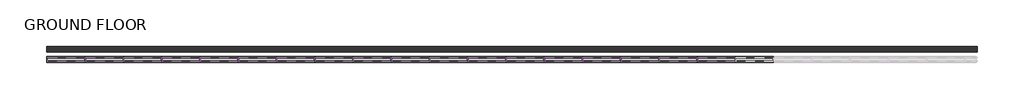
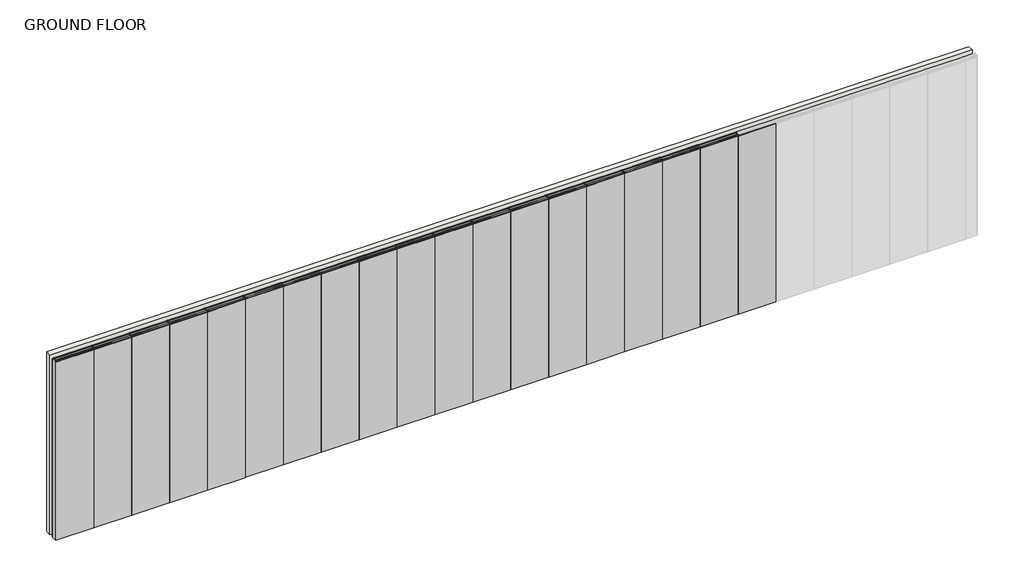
# One storey, part 1 of 2: 56 members, 19 plates, 1 wall.
"""IFC4 building model written with IfcOpenShell, lengths in millimetres."""

from ifc_helpers import new_model, si_unit, origin, origin_with_axes, place, context, project, spatial, polyline, outline, extrude, transform, mapped, element, save
from components import rectangular_mullion_stud_mullion_63mm_af775e70, rectangular_mullion_stud_mullion_63mm_2c4afd4c, rectangular_mullion_stud_mullion_63mm_ab3eab4e, rectangular_mullion_stud_mullion_63mm_08592bac, plate_2_layer_drywall_panels_2_layer_15mm_drywall_panels_7b1b0b35

model = new_model("IFC4")

# Units and contexts
model_context = context("Model", 3, world=origin())
ifc_project = project(units=[si_unit("LENGTHUNIT", "METRE", prefix="MILLI")], contexts=[model_context])

# Site, building, storey
site = spatial("IfcSite", under=ifc_project)
building = spatial("IfcBuilding", under=site)
storey = spatial("IfcBuildingStorey", under=building, Name="GROUND FLOOR", Elevation=0.0)

# Members
placement = place(None, origin())
rectangular_mullion_stud_mullion_63mm_shape = rectangular_mullion_stud_mullion_63mm_af775e70(model_context)
element("IfcMember", 1, ObjectType="Rectangular Mullion : Stud Mullion - 63mm", at=placement, inside=storey, context=model_context, shape_type="MappedRepresentation", body=[
    mapped(rectangular_mullion_stud_mullion_63mm_shape, transform((61654.5186508, -31259.4010443, 0.0), x_axis=(0.0, 0.0, -1.0), y_axis=(0.0, -1.0, 0.0), z_axis=(-1.0, 0.0, 0.0))),
])
element("IfcMember", 2, ObjectType="Rectangular Mullion : Stud Mullion - 63mm", at=placement, inside=storey, context=model_context, shape_type="MappedRepresentation", body=[
    mapped(rectangular_mullion_stud_mullion_63mm_shape, transform((62254.5186511, -31259.4010443, 0.0), x_axis=(0.0, 0.0, -1.0), y_axis=(0.0, -1.0, 0.0), z_axis=(-1.0, 0.0, 0.0))),
])
element("IfcMember", 3, ObjectType="Rectangular Mullion : Stud Mullion - 63mm", at=placement, inside=storey, context=model_context, shape_type="MappedRepresentation", body=[
    mapped(rectangular_mullion_stud_mullion_63mm_shape, transform((62854.5186511, -31259.4010443, 0.0), x_axis=(0.0, 0.0, -1.0), y_axis=(0.0, -1.0, 0.0), z_axis=(-1.0, 0.0, 0.0))),
])
element("IfcMember", 4, ObjectType="Rectangular Mullion : Stud Mullion - 63mm", at=placement, inside=storey, context=model_context, shape_type="MappedRepresentation", body=[
    mapped(rectangular_mullion_stud_mullion_63mm_shape, transform((63454.5186511, -31259.4010443, 0.0), x_axis=(0.0, 0.0, -1.0), y_axis=(0.0, -1.0, 0.0), z_axis=(-1.0, 0.0, 0.0))),
])
element("IfcMember", 5, ObjectType="Rectangular Mullion : Stud Mullion - 63mm", at=placement, inside=storey, context=model_context, shape_type="MappedRepresentation", body=[
    mapped(rectangular_mullion_stud_mullion_63mm_shape, transform((64054.5186511, -31259.4010443, 0.0), x_axis=(0.0, 0.0, -1.0), y_axis=(0.0, -1.0, 0.0), z_axis=(-1.0, 0.0, 0.0))),
])
element("IfcMember", 6, ObjectType="Rectangular Mullion : Stud Mullion - 63mm", at=placement, inside=storey, context=model_context, shape_type="MappedRepresentation", body=[
    mapped(rectangular_mullion_stud_mullion_63mm_shape, transform((64654.5186511, -31259.4010443, 0.0), x_axis=(0.0, 0.0, -1.0), y_axis=(0.0, -1.0, 0.0), z_axis=(-1.0, 0.0, 0.0))),
])
element("IfcMember", 7, ObjectType="Rectangular Mullion : Stud Mullion - 63mm", at=placement, inside=storey, context=model_context, shape_type="MappedRepresentation", body=[
    mapped(rectangular_mullion_stud_mullion_63mm_shape, transform((65254.5186511, -31259.4010443, 0.0), x_axis=(0.0, 0.0, -1.0), y_axis=(0.0, -1.0, 0.0), z_axis=(-1.0, 0.0, 0.0))),
])
element("IfcMember", 8, ObjectType="Rectangular Mullion : Stud Mullion - 63mm", at=placement, inside=storey, context=model_context, shape_type="MappedRepresentation", body=[
    mapped(rectangular_mullion_stud_mullion_63mm_shape, transform((65854.5186511, -31259.4010443, 0.0), x_axis=(0.0, 0.0, -1.0), y_axis=(0.0, -1.0, 0.0), z_axis=(-1.0, 0.0, 0.0))),
])
element("IfcMember", 9, ObjectType="Rectangular Mullion : Stud Mullion - 63mm", at=placement, inside=storey, context=model_context, shape_type="MappedRepresentation", body=[
    mapped(rectangular_mullion_stud_mullion_63mm_shape, transform((66454.5186511, -31259.4010443, 0.0), x_axis=(0.0, 0.0, -1.0), y_axis=(0.0, -1.0, 0.0), z_axis=(-1.0, 0.0, 0.0))),
])
element("IfcMember", 10, ObjectType="Rectangular Mullion : Stud Mullion - 63mm", at=placement, inside=storey, context=model_context, shape_type="MappedRepresentation", body=[
    mapped(rectangular_mullion_stud_mullion_63mm_shape, transform((67054.5186511, -31259.4010443, 0.0), x_axis=(0.0, 0.0, -1.0), y_axis=(0.0, -1.0, 0.0), z_axis=(-1.0, 0.0, 0.0))),
])
element("IfcMember", 11, ObjectType="Rectangular Mullion : Stud Mullion - 63mm", at=placement, inside=storey, context=model_context, shape_type="MappedRepresentation", body=[
    mapped(rectangular_mullion_stud_mullion_63mm_shape, transform((67654.5186511, -31259.4010443, 0.0), x_axis=(0.0, 0.0, -1.0), y_axis=(0.0, -1.0, 0.0), z_axis=(-1.0, 0.0, 0.0))),
])
element("IfcMember", 12, ObjectType="Rectangular Mullion : Stud Mullion - 63mm", at=placement, inside=storey, context=model_context, shape_type="MappedRepresentation", body=[
    mapped(rectangular_mullion_stud_mullion_63mm_shape, transform((68254.5186511, -31259.4010443, 0.0), x_axis=(0.0, 0.0, -1.0), y_axis=(0.0, -1.0, 0.0), z_axis=(-1.0, 0.0, 0.0))),
])
element("IfcMember", 13, ObjectType="Rectangular Mullion : Stud Mullion - 63mm", at=placement, inside=storey, context=model_context, shape_type="MappedRepresentation", body=[
    mapped(rectangular_mullion_stud_mullion_63mm_shape, transform((68854.5186511, -31259.4010443, 0.0), x_axis=(0.0, 0.0, -1.0), y_axis=(0.0, -1.0, 0.0), z_axis=(-1.0, 0.0, 0.0))),
])
element("IfcMember", 14, ObjectType="Rectangular Mullion : Stud Mullion - 63mm", at=placement, inside=storey, context=model_context, shape_type="MappedRepresentation", body=[
    mapped(rectangular_mullion_stud_mullion_63mm_shape, transform((69454.5186511, -31259.4010443, 0.0), x_axis=(0.0, 0.0, -1.0), y_axis=(0.0, -1.0, 0.0), z_axis=(-1.0, 0.0, 0.0))),
])
element("IfcMember", 15, ObjectType="Rectangular Mullion : Stud Mullion - 63mm", at=placement, inside=storey, context=model_context, shape_type="MappedRepresentation", body=[
    mapped(rectangular_mullion_stud_mullion_63mm_shape, transform((70054.5186511, -31259.4010443, 0.0), x_axis=(0.0, 0.0, -1.0), y_axis=(0.0, -1.0, 0.0), z_axis=(-1.0, 0.0, 0.0))),
])
element("IfcMember", 16, ObjectType="Rectangular Mullion : Stud Mullion - 63mm", at=placement, inside=storey, context=model_context, shape_type="MappedRepresentation", body=[
    mapped(rectangular_mullion_stud_mullion_63mm_shape, transform((70654.5186511, -31259.4010443, 0.0), x_axis=(0.0, 0.0, -1.0), y_axis=(0.0, -1.0, 0.0), z_axis=(-1.0, 0.0, 0.0))),
])
element("IfcMember", 17, ObjectType="Rectangular Mullion : Stud Mullion - 63mm", at=placement, inside=storey, context=model_context, shape_type="MappedRepresentation", body=[
    mapped(rectangular_mullion_stud_mullion_63mm_shape, transform((71254.5186511, -31259.4010443, 0.0), x_axis=(0.0, 0.0, -1.0), y_axis=(0.0, -1.0, 0.0), z_axis=(-1.0, 0.0, 0.0))),
])
element("IfcMember", 18, ObjectType="Rectangular Mullion : Stud Mullion - 63mm", at=placement, inside=storey, context=model_context, shape_type="MappedRepresentation", body=[
    mapped(rectangular_mullion_stud_mullion_63mm_shape, transform((71854.5186511, -31259.4010443, 0.0), x_axis=(0.0, 0.0, -1.0), y_axis=(0.0, -1.0, 0.0), z_axis=(-1.0, 0.0, 0.0))),
])
element("IfcMember", 19, ObjectType="Rectangular Mullion : Stud Mullion - 63mm", at=placement, inside=storey, context=model_context, shape_type="MappedRepresentation", body=[
    mapped(rectangular_mullion_stud_mullion_63mm_shape, transform((72454.5186511, -31259.4010443, 0.0), x_axis=(0.0, 0.0, -1.0), y_axis=(0.0, -1.0, 0.0), z_axis=(-1.0, 0.0, 0.0))),
])
rectangular_mullion_stud_mullion_63mm_2_shape = rectangular_mullion_stud_mullion_63mm_2c4afd4c(model_context)
element("IfcMember", 20, ObjectType="Rectangular Mullion : Stud Mullion - 63mm", at=placement, inside=storey, context=model_context, shape_type="MappedRepresentation", body=[
    mapped(rectangular_mullion_stud_mullion_63mm_2_shape, transform((61635.5186508, -31259.4010443, 3000.0), x_axis=(-1.0, 0.0, 0.0), y_axis=(0.0, -1.0, 0.0), z_axis=(0.0, 0.0, 1.0))),
])
rectangular_mullion_stud_mullion_63mm_3_shape = rectangular_mullion_stud_mullion_63mm_ab3eab4e(model_context)
element("IfcMember", 21, ObjectType="Rectangular Mullion : Stud Mullion - 63mm", at=placement, inside=storey, context=model_context, shape_type="MappedRepresentation", body=[
    mapped(rectangular_mullion_stud_mullion_63mm_3_shape, transform((62235.5186511, -31259.4010443, 3000.0), x_axis=(0.0, 0.0, 1.0), y_axis=(0.0, -1.0, 0.0), z_axis=(1.0, 0.0, 0.0))),
])
element("IfcMember", 22, ObjectType="Rectangular Mullion : Stud Mullion - 63mm", at=placement, inside=storey, context=model_context, shape_type="MappedRepresentation", body=[
    mapped(rectangular_mullion_stud_mullion_63mm_3_shape, transform((62835.5186511, -31259.4010443, 3000.0), x_axis=(0.0, 0.0, 1.0), y_axis=(0.0, -1.0, 0.0), z_axis=(1.0, 0.0, 0.0))),
])
element("IfcMember", 23, ObjectType="Rectangular Mullion : Stud Mullion - 63mm", at=placement, inside=storey, context=model_context, shape_type="MappedRepresentation", body=[
    mapped(rectangular_mullion_stud_mullion_63mm_3_shape, transform((63435.5186511, -31259.4010443, 3000.0), x_axis=(0.0, 0.0, 1.0), y_axis=(0.0, -1.0, 0.0), z_axis=(1.0, 0.0, 0.0))),
])
element("IfcMember", 24, ObjectType="Rectangular Mullion : Stud Mullion - 63mm", at=placement, inside=storey, context=model_context, shape_type="MappedRepresentation", body=[
    mapped(rectangular_mullion_stud_mullion_63mm_3_shape, transform((64035.5186511, -31259.4010443, 3000.0), x_axis=(0.0, 0.0, 1.0), y_axis=(0.0, -1.0, 0.0), z_axis=(1.0, 0.0, 0.0))),
])
element("IfcMember", 25, ObjectType="Rectangular Mullion : Stud Mullion - 63mm", at=placement, inside=storey, context=model_context, shape_type="MappedRepresentation", body=[
    mapped(rectangular_mullion_stud_mullion_63mm_3_shape, transform((64635.5186511, -31259.4010443, 3000.0), x_axis=(0.0, 0.0, 1.0), y_axis=(0.0, -1.0, 0.0), z_axis=(1.0, 0.0, 0.0))),
])
element("IfcMember", 26, ObjectType="Rectangular Mullion : Stud Mullion - 63mm", at=placement, inside=storey, context=model_context, shape_type="MappedRepresentation", body=[
    mapped(rectangular_mullion_stud_mullion_63mm_3_shape, transform((65235.5186511, -31259.4010443, 3000.0), x_axis=(0.0, 0.0, 1.0), y_axis=(0.0, -1.0, 0.0), z_axis=(1.0, 0.0, 0.0))),
])
element("IfcMember", 27, ObjectType="Rectangular Mullion : Stud Mullion - 63mm", at=placement, inside=storey, context=model_context, shape_type="MappedRepresentation", body=[
    mapped(rectangular_mullion_stud_mullion_63mm_3_shape, transform((65835.5186511, -31259.4010443, 3000.0), x_axis=(0.0, 0.0, 1.0), y_axis=(0.0, -1.0, 0.0), z_axis=(1.0, 0.0, 0.0))),
])
element("IfcMember", 28, ObjectType="Rectangular Mullion : Stud Mullion - 63mm", at=placement, inside=storey, context=model_context, shape_type="MappedRepresentation", body=[
    mapped(rectangular_mullion_stud_mullion_63mm_3_shape, transform((66435.5186511, -31259.4010443, 3000.0), x_axis=(0.0, 0.0, 1.0), y_axis=(0.0, -1.0, 0.0), z_axis=(1.0, 0.0, 0.0))),
])
element("IfcMember", 29, ObjectType="Rectangular Mullion : Stud Mullion - 63mm", at=placement, inside=storey, context=model_context, shape_type="MappedRepresentation", body=[
    mapped(rectangular_mullion_stud_mullion_63mm_3_shape, transform((67035.5186511, -31259.4010443, 3000.0), x_axis=(0.0, 0.0, 1.0), y_axis=(0.0, -1.0, 0.0), z_axis=(1.0, 0.0, 0.0))),
])
element("IfcMember", 30, ObjectType="Rectangular Mullion : Stud Mullion - 63mm", at=placement, inside=storey, context=model_context, shape_type="MappedRepresentation", body=[
    mapped(rectangular_mullion_stud_mullion_63mm_3_shape, transform((67635.5186511, -31259.4010443, 3000.0), x_axis=(0.0, 0.0, 1.0), y_axis=(0.0, -1.0, 0.0), z_axis=(1.0, 0.0, 0.0))),
])
element("IfcMember", 31, ObjectType="Rectangular Mullion : Stud Mullion - 63mm", at=placement, inside=storey, context=model_context, shape_type="MappedRepresentation", body=[
    mapped(rectangular_mullion_stud_mullion_63mm_3_shape, transform((68235.5186511, -31259.4010443, 3000.0), x_axis=(0.0, 0.0, 1.0), y_axis=(0.0, -1.0, 0.0), z_axis=(1.0, 0.0, 0.0))),
])
element("IfcMember", 32, ObjectType="Rectangular Mullion : Stud Mullion - 63mm", at=placement, inside=storey, context=model_context, shape_type="MappedRepresentation", body=[
    mapped(rectangular_mullion_stud_mullion_63mm_3_shape, transform((68835.5186511, -31259.4010443, 3000.0), x_axis=(0.0, 0.0, 1.0), y_axis=(0.0, -1.0, 0.0), z_axis=(1.0, 0.0, 0.0))),
])
element("IfcMember", 33, ObjectType="Rectangular Mullion : Stud Mullion - 63mm", at=placement, inside=storey, context=model_context, shape_type="MappedRepresentation", body=[
    mapped(rectangular_mullion_stud_mullion_63mm_3_shape, transform((69435.5186511, -31259.4010443, 3000.0), x_axis=(0.0, 0.0, 1.0), y_axis=(0.0, -1.0, 0.0), z_axis=(1.0, 0.0, 0.0))),
])
element("IfcMember", 34, ObjectType="Rectangular Mullion : Stud Mullion - 63mm", at=placement, inside=storey, context=model_context, shape_type="MappedRepresentation", body=[
    mapped(rectangular_mullion_stud_mullion_63mm_3_shape, transform((70035.5186511, -31259.4010443, 3000.0), x_axis=(0.0, 0.0, 1.0), y_axis=(0.0, -1.0, 0.0), z_axis=(1.0, 0.0, 0.0))),
])
element("IfcMember", 35, ObjectType="Rectangular Mullion : Stud Mullion - 63mm", at=placement, inside=storey, context=model_context, shape_type="MappedRepresentation", body=[
    mapped(rectangular_mullion_stud_mullion_63mm_3_shape, transform((70635.5186511, -31259.4010443, 3000.0), x_axis=(0.0, 0.0, 1.0), y_axis=(0.0, -1.0, 0.0), z_axis=(1.0, 0.0, 0.0))),
])
element("IfcMember", 36, ObjectType="Rectangular Mullion : Stud Mullion - 63mm", at=placement, inside=storey, context=model_context, shape_type="MappedRepresentation", body=[
    mapped(rectangular_mullion_stud_mullion_63mm_3_shape, transform((71235.5186511, -31259.4010443, 3000.0), x_axis=(0.0, 0.0, 1.0), y_axis=(0.0, -1.0, 0.0), z_axis=(1.0, 0.0, 0.0))),
])
element("IfcMember", 37, ObjectType="Rectangular Mullion : Stud Mullion - 63mm", at=placement, inside=storey, context=model_context, shape_type="MappedRepresentation", body=[
    mapped(rectangular_mullion_stud_mullion_63mm_3_shape, transform((71835.5186511, -31259.4010443, 3000.0), x_axis=(0.0, 0.0, 1.0), y_axis=(0.0, -1.0, 0.0), z_axis=(1.0, 0.0, 0.0))),
])
element("IfcMember", 38, ObjectType="Rectangular Mullion : Stud Mullion - 63mm", at=placement, inside=storey, context=model_context, shape_type="MappedRepresentation", body=[
    mapped(rectangular_mullion_stud_mullion_63mm_3_shape, transform((72435.5186511, -31259.4010443, 3000.0), x_axis=(0.0, 0.0, 1.0), y_axis=(0.0, -1.0, 0.0), z_axis=(1.0, 0.0, 0.0))),
])
rectangular_mullion_stud_mullion_63mm_4_shape = rectangular_mullion_stud_mullion_63mm_08592bac(model_context)
element("IfcMember", 39, ObjectType="Rectangular Mullion : Stud Mullion - 63mm", at=placement, inside=storey, context=model_context, shape_type="MappedRepresentation", body=[
    mapped(rectangular_mullion_stud_mullion_63mm_4_shape, transform((62245.0186511, -31259.4010443, 0.0), x_axis=(1.0, 0.0, 0.0), y_axis=(0.0, -1.0, 0.0), z_axis=(0.0, 0.0, -1.0))),
])
element("IfcMember", 40, ObjectType="Rectangular Mullion : Stud Mullion - 63mm", at=placement, inside=storey, context=model_context, shape_type="MappedRepresentation", body=[
    mapped(rectangular_mullion_stud_mullion_63mm_4_shape, transform((62845.0186511, -31259.4010443, 0.0), x_axis=(1.0, 0.0, 0.0), y_axis=(0.0, -1.0, 0.0), z_axis=(0.0, 0.0, -1.0))),
])
element("IfcMember", 41, ObjectType="Rectangular Mullion : Stud Mullion - 63mm", at=placement, inside=storey, context=model_context, shape_type="MappedRepresentation", body=[
    mapped(rectangular_mullion_stud_mullion_63mm_4_shape, transform((63445.0186511, -31259.4010443, 0.0), x_axis=(1.0, 0.0, 0.0), y_axis=(0.0, -1.0, 0.0), z_axis=(0.0, 0.0, -1.0))),
])
element("IfcMember", 42, ObjectType="Rectangular Mullion : Stud Mullion - 63mm", at=placement, inside=storey, context=model_context, shape_type="MappedRepresentation", body=[
    mapped(rectangular_mullion_stud_mullion_63mm_4_shape, transform((64045.0186511, -31259.4010443, 0.0), x_axis=(1.0, 0.0, 0.0), y_axis=(0.0, -1.0, 0.0), z_axis=(0.0, 0.0, -1.0))),
])
element("IfcMember", 43, ObjectType="Rectangular Mullion : Stud Mullion - 63mm", at=placement, inside=storey, context=model_context, shape_type="MappedRepresentation", body=[
    mapped(rectangular_mullion_stud_mullion_63mm_4_shape, transform((64645.0186511, -31259.4010443, 0.0), x_axis=(1.0, 0.0, 0.0), y_axis=(0.0, -1.0, 0.0), z_axis=(0.0, 0.0, -1.0))),
])
element("IfcMember", 44, ObjectType="Rectangular Mullion : Stud Mullion - 63mm", at=placement, inside=storey, context=model_context, shape_type="MappedRepresentation", body=[
    mapped(rectangular_mullion_stud_mullion_63mm_4_shape, transform((65245.0186511, -31259.4010443, 0.0), x_axis=(1.0, 0.0, 0.0), y_axis=(0.0, -1.0, 0.0), z_axis=(0.0, 0.0, -1.0))),
])
element("IfcMember", 45, ObjectType="Rectangular Mullion : Stud Mullion - 63mm", at=placement, inside=storey, context=model_context, shape_type="MappedRepresentation", body=[
    mapped(rectangular_mullion_stud_mullion_63mm_4_shape, transform((65845.0186511, -31259.4010443, 0.0), x_axis=(1.0, 0.0, 0.0), y_axis=(0.0, -1.0, 0.0), z_axis=(0.0, 0.0, -1.0))),
])
element("IfcMember", 46, ObjectType="Rectangular Mullion : Stud Mullion - 63mm", at=placement, inside=storey, context=model_context, shape_type="MappedRepresentation", body=[
    mapped(rectangular_mullion_stud_mullion_63mm_4_shape, transform((66445.0186511, -31259.4010443, 0.0), x_axis=(1.0, 0.0, 0.0), y_axis=(0.0, -1.0, 0.0), z_axis=(0.0, 0.0, -1.0))),
])
element("IfcMember", 47, ObjectType="Rectangular Mullion : Stud Mullion - 63mm", at=placement, inside=storey, context=model_context, shape_type="MappedRepresentation", body=[
    mapped(rectangular_mullion_stud_mullion_63mm_4_shape, transform((67045.0186511, -31259.4010443, 0.0), x_axis=(1.0, 0.0, 0.0), y_axis=(0.0, -1.0, 0.0), z_axis=(0.0, 0.0, -1.0))),
])
element("IfcMember", 48, ObjectType="Rectangular Mullion : Stud Mullion - 63mm", at=placement, inside=storey, context=model_context, shape_type="MappedRepresentation", body=[
    mapped(rectangular_mullion_stud_mullion_63mm_4_shape, transform((67645.0186511, -31259.4010443, 0.0), x_axis=(1.0, 0.0, 0.0), y_axis=(0.0, -1.0, 0.0), z_axis=(0.0, 0.0, -1.0))),
])
element("IfcMember", 49, ObjectType="Rectangular Mullion : Stud Mullion - 63mm", at=placement, inside=storey, context=model_context, shape_type="MappedRepresentation", body=[
    mapped(rectangular_mullion_stud_mullion_63mm_4_shape, transform((68245.0186511, -31259.4010443, 0.0), x_axis=(1.0, 0.0, 0.0), y_axis=(0.0, -1.0, 0.0), z_axis=(0.0, 0.0, -1.0))),
])
element("IfcMember", 50, ObjectType="Rectangular Mullion : Stud Mullion - 63mm", at=placement, inside=storey, context=model_context, shape_type="MappedRepresentation", body=[
    mapped(rectangular_mullion_stud_mullion_63mm_4_shape, transform((68845.0186511, -31259.4010443, 0.0), x_axis=(1.0, 0.0, 0.0), y_axis=(0.0, -1.0, 0.0), z_axis=(0.0, 0.0, -1.0))),
])
element("IfcMember", 51, ObjectType="Rectangular Mullion : Stud Mullion - 63mm", at=placement, inside=storey, context=model_context, shape_type="MappedRepresentation", body=[
    mapped(rectangular_mullion_stud_mullion_63mm_4_shape, transform((69445.0186511, -31259.4010443, 0.0), x_axis=(1.0, 0.0, 0.0), y_axis=(0.0, -1.0, 0.0), z_axis=(0.0, 0.0, -1.0))),
])
element("IfcMember", 52, ObjectType="Rectangular Mullion : Stud Mullion - 63mm", at=placement, inside=storey, context=model_context, shape_type="MappedRepresentation", body=[
    mapped(rectangular_mullion_stud_mullion_63mm_4_shape, transform((70045.0186511, -31259.4010443, 0.0), x_axis=(1.0, 0.0, 0.0), y_axis=(0.0, -1.0, 0.0), z_axis=(0.0, 0.0, -1.0))),
])
element("IfcMember", 53, ObjectType="Rectangular Mullion : Stud Mullion - 63mm", at=placement, inside=storey, context=model_context, shape_type="MappedRepresentation", body=[
    mapped(rectangular_mullion_stud_mullion_63mm_4_shape, transform((70645.0186511, -31259.4010443, 0.0), x_axis=(1.0, 0.0, 0.0), y_axis=(0.0, -1.0, 0.0), z_axis=(0.0, 0.0, -1.0))),
])
element("IfcMember", 54, ObjectType="Rectangular Mullion : Stud Mullion - 63mm", at=placement, inside=storey, context=model_context, shape_type="MappedRepresentation", body=[
    mapped(rectangular_mullion_stud_mullion_63mm_4_shape, transform((71245.0186511, -31259.4010443, 0.0), x_axis=(1.0, 0.0, 0.0), y_axis=(0.0, -1.0, 0.0), z_axis=(0.0, 0.0, -1.0))),
])
element("IfcMember", 55, ObjectType="Rectangular Mullion : Stud Mullion - 63mm", at=placement, inside=storey, context=model_context, shape_type="MappedRepresentation", body=[
    mapped(rectangular_mullion_stud_mullion_63mm_4_shape, transform((71845.0186511, -31259.4010443, 0.0), x_axis=(1.0, 0.0, 0.0), y_axis=(0.0, -1.0, 0.0), z_axis=(0.0, 0.0, -1.0))),
])
element("IfcMember", 56, ObjectType="Rectangular Mullion : Stud Mullion - 63mm", at=placement, inside=storey, context=model_context, shape_type="MappedRepresentation", body=[
    mapped(rectangular_mullion_stud_mullion_63mm_4_shape, transform((72445.0186511, -31259.4010443, 0.0), x_axis=(1.0, 0.0, 0.0), y_axis=(0.0, -1.0, 0.0), z_axis=(0.0, 0.0, -1.0))),
])

# Plates
plate_2_layer_drywall_panels_2_layer_15mm_drywall_panels_shape = plate_2_layer_drywall_panels_2_layer_15mm_drywall_panels_7b1b0b35(model_context)
element("IfcPlate", 57, ObjectType="2 Layer - Drywall Panels : 2 Layer - 15mm Drywall Panels 93mm", at=placement, inside=storey, context=model_context, shape_type="MappedRepresentation", body=[
    mapped(plate_2_layer_drywall_panels_2_layer_15mm_drywall_panels_shape, transform((61936.318651, -31259.4010443, 1.6), x_axis=(1.0, 0.0, 0.0), y_axis=(0.0, 1.0, 0.0), z_axis=(0.0, 0.0, 1.0))),
])
element("IfcPlate", 58, ObjectType="2 Layer - Drywall Panels : 2 Layer - 15mm Drywall Panels 93mm", at=placement, inside=storey, context=model_context, shape_type="MappedRepresentation", body=[
    mapped(plate_2_layer_drywall_panels_2_layer_15mm_drywall_panels_shape, transform((62536.3186511, -31259.4010443, 1.6), x_axis=(1.0, 0.0, 0.0), y_axis=(0.0, 1.0, 0.0), z_axis=(0.0, 0.0, 1.0))),
])
element("IfcPlate", 59, ObjectType="2 Layer - Drywall Panels : 2 Layer - 15mm Drywall Panels 93mm", at=placement, inside=storey, context=model_context, shape_type="MappedRepresentation", body=[
    mapped(plate_2_layer_drywall_panels_2_layer_15mm_drywall_panels_shape, transform((63136.3186511, -31259.4010443, 1.6), x_axis=(1.0, 0.0, 0.0), y_axis=(0.0, 1.0, 0.0), z_axis=(0.0, 0.0, 1.0))),
])
element("IfcPlate", 60, ObjectType="2 Layer - Drywall Panels : 2 Layer - 15mm Drywall Panels 93mm", at=placement, inside=storey, context=model_context, shape_type="MappedRepresentation", body=[
    mapped(plate_2_layer_drywall_panels_2_layer_15mm_drywall_panels_shape, transform((63736.3186511, -31259.4010443, 1.6), x_axis=(1.0, 0.0, 0.0), y_axis=(0.0, 1.0, 0.0), z_axis=(0.0, 0.0, 1.0))),
])
element("IfcPlate", 61, ObjectType="2 Layer - Drywall Panels : 2 Layer - 15mm Drywall Panels 93mm", at=placement, inside=storey, context=model_context, shape_type="MappedRepresentation", body=[
    mapped(plate_2_layer_drywall_panels_2_layer_15mm_drywall_panels_shape, transform((64336.3186511, -31259.4010443, 1.6), x_axis=(1.0, 0.0, 0.0), y_axis=(0.0, 1.0, 0.0), z_axis=(0.0, 0.0, 1.0))),
])
element("IfcPlate", 62, ObjectType="2 Layer - Drywall Panels : 2 Layer - 15mm Drywall Panels 93mm", at=placement, inside=storey, context=model_context, shape_type="MappedRepresentation", body=[
    mapped(plate_2_layer_drywall_panels_2_layer_15mm_drywall_panels_shape, transform((64936.3186511, -31259.4010443, 1.6), x_axis=(1.0, 0.0, 0.0), y_axis=(0.0, 1.0, 0.0), z_axis=(0.0, 0.0, 1.0))),
])
element("IfcPlate", 63, ObjectType="2 Layer - Drywall Panels : 2 Layer - 15mm Drywall Panels 93mm", at=placement, inside=storey, context=model_context, shape_type="MappedRepresentation", body=[
    mapped(plate_2_layer_drywall_panels_2_layer_15mm_drywall_panels_shape, transform((65536.3186511, -31259.4010443, 1.6), x_axis=(1.0, 0.0, 0.0), y_axis=(0.0, 1.0, 0.0), z_axis=(0.0, 0.0, 1.0))),
])
element("IfcPlate", 64, ObjectType="2 Layer - Drywall Panels : 2 Layer - 15mm Drywall Panels 93mm", at=placement, inside=storey, context=model_context, shape_type="MappedRepresentation", body=[
    mapped(plate_2_layer_drywall_panels_2_layer_15mm_drywall_panels_shape, transform((66136.3186511, -31259.4010443, 1.6), x_axis=(1.0, 0.0, 0.0), y_axis=(0.0, 1.0, 0.0), z_axis=(0.0, 0.0, 1.0))),
])
element("IfcPlate", 65, ObjectType="2 Layer - Drywall Panels : 2 Layer - 15mm Drywall Panels 93mm", at=placement, inside=storey, context=model_context, shape_type="MappedRepresentation", body=[
    mapped(plate_2_layer_drywall_panels_2_layer_15mm_drywall_panels_shape, transform((66736.3186511, -31259.4010443, 1.6), x_axis=(1.0, 0.0, 0.0), y_axis=(0.0, 1.0, 0.0), z_axis=(0.0, 0.0, 1.0))),
])
element("IfcPlate", 66, ObjectType="2 Layer - Drywall Panels : 2 Layer - 15mm Drywall Panels 93mm", at=placement, inside=storey, context=model_context, shape_type="MappedRepresentation", body=[
    mapped(plate_2_layer_drywall_panels_2_layer_15mm_drywall_panels_shape, transform((67336.3186511, -31259.4010443, 1.6), x_axis=(1.0, 0.0, 0.0), y_axis=(0.0, 1.0, 0.0), z_axis=(0.0, 0.0, 1.0))),
])
element("IfcPlate", 67, ObjectType="2 Layer - Drywall Panels : 2 Layer - 15mm Drywall Panels 93mm", at=placement, inside=storey, context=model_context, shape_type="MappedRepresentation", body=[
    mapped(plate_2_layer_drywall_panels_2_layer_15mm_drywall_panels_shape, transform((67936.3186511, -31259.4010443, 1.6), x_axis=(1.0, 0.0, 0.0), y_axis=(0.0, 1.0, 0.0), z_axis=(0.0, 0.0, 1.0))),
])
element("IfcPlate", 68, ObjectType="2 Layer - Drywall Panels : 2 Layer - 15mm Drywall Panels 93mm", at=placement, inside=storey, context=model_context, shape_type="MappedRepresentation", body=[
    mapped(plate_2_layer_drywall_panels_2_layer_15mm_drywall_panels_shape, transform((68536.3186511, -31259.4010443, 1.6), x_axis=(1.0, 0.0, 0.0), y_axis=(0.0, 1.0, 0.0), z_axis=(0.0, 0.0, 1.0))),
])
element("IfcPlate", 69, ObjectType="2 Layer - Drywall Panels : 2 Layer - 15mm Drywall Panels 93mm", at=placement, inside=storey, context=model_context, shape_type="MappedRepresentation", body=[
    mapped(plate_2_layer_drywall_panels_2_layer_15mm_drywall_panels_shape, transform((69136.3186511, -31259.4010443, 1.6), x_axis=(1.0, 0.0, 0.0), y_axis=(0.0, 1.0, 0.0), z_axis=(0.0, 0.0, 1.0))),
])
element("IfcPlate", 70, ObjectType="2 Layer - Drywall Panels : 2 Layer - 15mm Drywall Panels 93mm", at=placement, inside=storey, context=model_context, shape_type="MappedRepresentation", body=[
    mapped(plate_2_layer_drywall_panels_2_layer_15mm_drywall_panels_shape, transform((69736.3186511, -31259.4010443, 1.6), x_axis=(1.0, 0.0, 0.0), y_axis=(0.0, 1.0, 0.0), z_axis=(0.0, 0.0, 1.0))),
])
element("IfcPlate", 71, ObjectType="2 Layer - Drywall Panels : 2 Layer - 15mm Drywall Panels 93mm", at=placement, inside=storey, context=model_context, shape_type="MappedRepresentation", body=[
    mapped(plate_2_layer_drywall_panels_2_layer_15mm_drywall_panels_shape, transform((70336.3186511, -31259.4010443, 1.6), x_axis=(1.0, 0.0, 0.0), y_axis=(0.0, 1.0, 0.0), z_axis=(0.0, 0.0, 1.0))),
])
element("IfcPlate", 72, ObjectType="2 Layer - Drywall Panels : 2 Layer - 15mm Drywall Panels 93mm", at=placement, inside=storey, context=model_context, shape_type="MappedRepresentation", body=[
    mapped(plate_2_layer_drywall_panels_2_layer_15mm_drywall_panels_shape, transform((70936.3186511, -31259.4010443, 1.6), x_axis=(1.0, 0.0, 0.0), y_axis=(0.0, 1.0, 0.0), z_axis=(0.0, 0.0, 1.0))),
])
element("IfcPlate", 73, ObjectType="2 Layer - Drywall Panels : 2 Layer - 15mm Drywall Panels 93mm", at=placement, inside=storey, context=model_context, shape_type="MappedRepresentation", body=[
    mapped(plate_2_layer_drywall_panels_2_layer_15mm_drywall_panels_shape, transform((71536.3186511, -31259.4010443, 1.6), x_axis=(1.0, 0.0, 0.0), y_axis=(0.0, 1.0, 0.0), z_axis=(0.0, 0.0, 1.0))),
])
element("IfcPlate", 74, ObjectType="2 Layer - Drywall Panels : 2 Layer - 15mm Drywall Panels 93mm", at=placement, inside=storey, context=model_context, shape_type="MappedRepresentation", body=[
    mapped(plate_2_layer_drywall_panels_2_layer_15mm_drywall_panels_shape, transform((72136.3186511, -31259.4010443, 1.6), x_axis=(1.0, 0.0, 0.0), y_axis=(0.0, 1.0, 0.0), z_axis=(0.0, 0.0, 1.0))),
])
element("IfcPlate", 75, ObjectType="2 Layer - Drywall Panels : 2 Layer - 15mm Drywall Panels 93mm", at=placement, inside=storey, context=model_context, shape_type="MappedRepresentation", body=[
    mapped(plate_2_layer_drywall_panels_2_layer_15mm_drywall_panels_shape, transform((72736.3186511, -31259.4010443, 1.6), x_axis=(1.0, 0.0, 0.0), y_axis=(0.0, 1.0, 0.0), z_axis=(0.0, 0.0, 1.0))),
])

# Wall
element("IfcWall", 76, ObjectType="PW07 - JUMBO FireWALL 63/60", at=placement, inside=storey, context=model_context, shape_type="SweptSolid", body=[
    extrude(outline(polyline([(76235.5186508, -31145.9010443), (61635.5186508, -31145.9010443), (61635.5186508, -31052.9010443), (76235.5186508, -31052.9010443), (76235.5186508, -31145.9010443)])), origin_with_axes(), (0.0, 0.0, 1.0), 3000.0),
])

save(model, "model.ifc")
